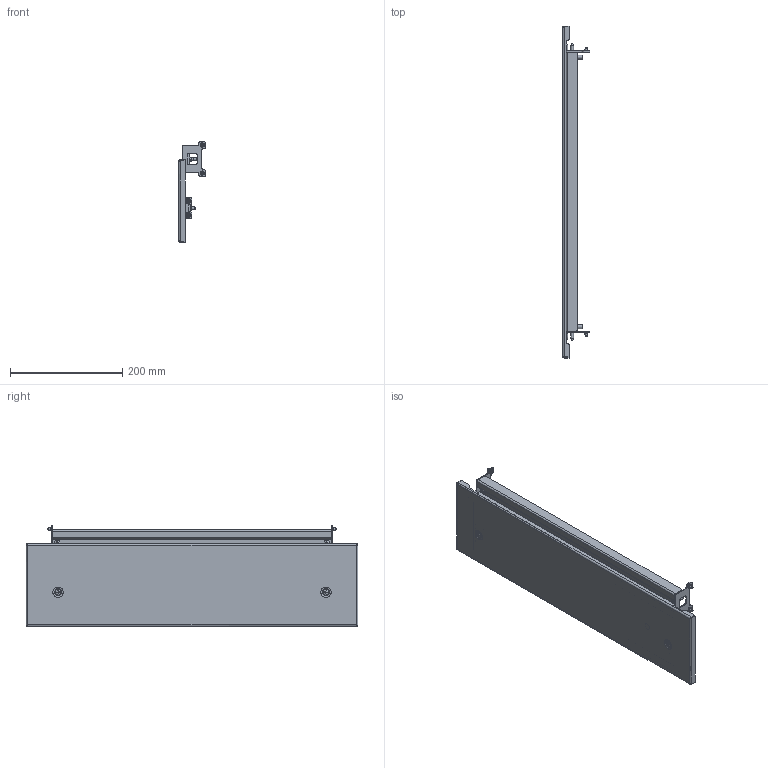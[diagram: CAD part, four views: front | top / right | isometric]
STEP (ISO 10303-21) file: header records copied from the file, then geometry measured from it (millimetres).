
FILE_DESCRIPTION(('STEP AP203'), '1');
FILE_NAME('3630 Ñåêöèîííàÿ ïàíåëü íà âèíòàõ (äëÿ çàêðûòèÿ ñåêöèè) ÑÁ', '', ('UNSPECIFIED'), ('UNSPECIFIED'), 'C3D Converter', 'C3D Toolkit', '');
FILE_SCHEMA(('CONFIG_CONTROL_DESIGN'));
Length unit declared in the file: millimetre
Products named in the file (18): 3630.15.60 СБ; 3631.15.60; 3632.15.60; 3600.60; 3601.60; 3624; 3625; 3604; 3654; 203-0655.61;  202-1103.15-00530
Assembly tree (29 placements, depth 4):
  3630.15.60 СБ
    3631.15.60
      3632.15.60
      (unnamed)
    3600.60
      3601.60
      3624  x2
        3625
        (unnamed)
      (unnamed)  x2
      (unnamed)  x2
      (unnamed)  x4
    3604  x2
      3654
      (unnamed)
    203-0655.61  x2
     202-1103.15-00530  x2
    (unnamed)  x4
Bounding box: 48.98 x 591 x 179.7 mm (x, y, z)
Volume: 355942.9 mm3; surface area: 382745.1 mm2
Topology: 28 solids, 28 shells, 840 faces, 2122 edges, 1386 vertices
Faces by surface type: plane 495, cylinder 205, bspline 64, cone 45, torus 25, sphere 6
Full cylindrical faces by diameter (mm): 4 x2, 4.134 x4, 4.8 x4, 5 x8, 5.2 x4, 5.3 x2, 5.8 x2, 6 x1, 6.38 x2, 6.4 x2, 6.5 x2, 6.8 x2, 7.5 x8, 7.74 x2, 8.7 x2, 9.2 x4, 9.5 x6, 10 x2, 11.5 x2
Entity records: 19014 total; most frequent: CARTESIAN_POINT 6779, DIRECTION 2225, ORIENTED_EDGE 2064, EDGE_CURVE 1032, AXIS2_PLACEMENT_3D 783, VERTEX_POINT 673, LINE 659, VECTOR 659
